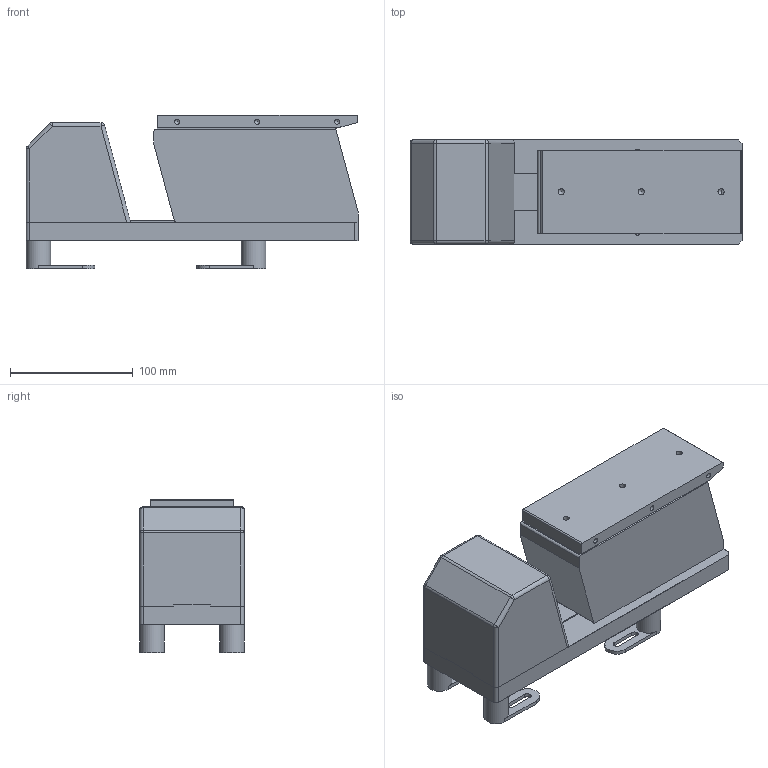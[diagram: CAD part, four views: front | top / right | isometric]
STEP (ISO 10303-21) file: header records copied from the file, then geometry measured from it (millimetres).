
FILE_DESCRIPTION( ('This file contains a STEP AP42 implementation' ,'as created by ZW3D STEP Interface translator.' ,'') ,'2;1' );
FILE_NAME( 'HD-ZC150耀倰.stp' ,'26 126. 93155', (''), ('ZWCAD Software Co.'), 'Version 1.0', 'ZW3D to STEP translator', '' );
FILE_SCHEMA(('AUTOMOTIVE_DESIGN { 1 0 10303 214 1 1 1 1 }'));
Length unit declared in the file: millimetre
Products named in the file (1): 0
Bounding box: 270 x 85 x 125.03 mm (x, y, z)
Volume: 2103975.9 mm3; surface area: 194936.5 mm2
Topology: 2 solids, 2 shells, 157 faces, 457 edges, 325 vertices
Faces by surface type: plane 81, cylinder 61, cone 9, sphere 6
Full cylindrical faces by diameter (mm): 4.2 x12, 5 x7, 8.5 x2, 15 x2, 20 x4
Entity records: 5273 total; most frequent: DIRECTION 904, CARTESIAN_POINT 873, ORIENTED_EDGE 812, EDGE_CURVE 406, AXIS2_PLACEMENT_3D 312, VECTOR 280, LINE 280, VERTEX_POINT 264
